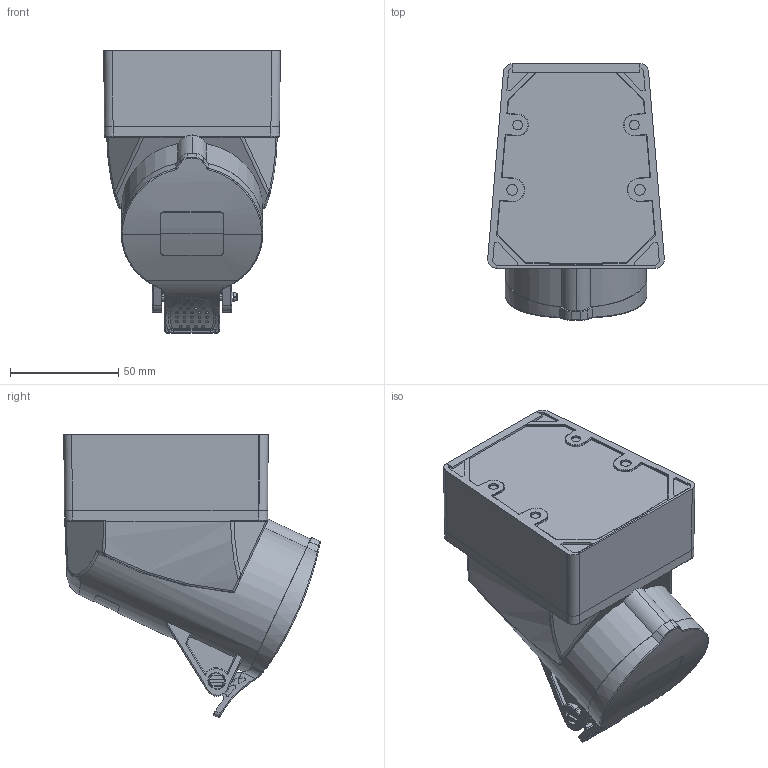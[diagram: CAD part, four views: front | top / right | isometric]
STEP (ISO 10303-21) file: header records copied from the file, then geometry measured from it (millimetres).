
FILE_DESCRIPTION (( 'STEP AP203' ), '1' );
FILE_NAME ('DIS5131657 (WS 5p 16ﾀ 400ﾂ IP44).stp.STEP', '2024-08-20T12:19:23', ( '' ), ( '' ), 'SwSTEP 2.0', 'SolidWorks 2022', '' );
FILE_SCHEMA (( 'CONFIG_CONTROL_DESIGN' ));
Length unit declared in the file: millimetre
Products named in the file (1): DIS5131657 (WS 5p 16А 400В IP44).stp
Bounding box: 81.72 x 118.66 x 130.91 mm (x, y, z)
Volume: 596794.1 mm3; surface area: 57952.8 mm2
Topology: 2 solids, 4 shells, 646 faces, 1635 edges, 1028 vertices
Faces by surface type: cylinder 250, plane 202, bspline 110, torus 54, sphere 16, cone 14
Entity records: 25056 total; most frequent: CARTESIAN_POINT 10258, ORIENTED_EDGE 3246, DIRECTION 2884, EDGE_CURVE 1623, AXIS2_PLACEMENT_3D 1096, VERTEX_POINT 1028, EDGE_LOOP 695, LINE 692
